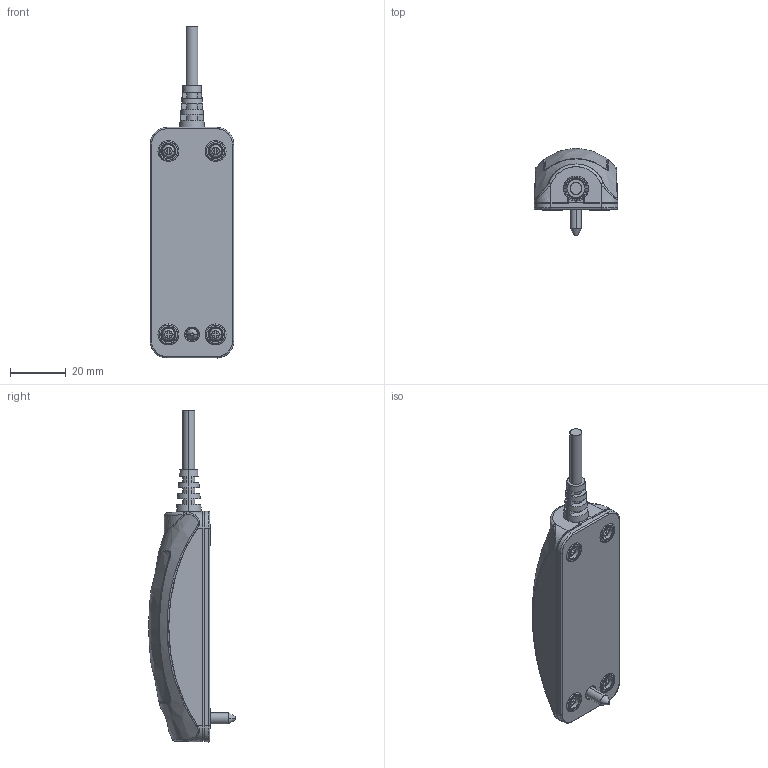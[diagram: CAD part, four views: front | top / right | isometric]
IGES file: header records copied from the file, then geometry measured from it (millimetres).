
Start section: SolidWorks IGES file using NURBS representation for surfaces
Global section: file name: C:\Users\lynn\Desktop\CP2\FL2.IGS; native system: SolidWorks 2015; preprocessor: SolidWorks 2015; author: lynn; date: 200114.090113; units: millimetre
Bounding box: 30 x 31.3 x 119.5 mm (x, y, z)
Surface area: 23023.1 mm2 (no closed solid volume)
Topology: 0 solids, 0 shells, 747 faces, 9783 edges, 9779 vertices
Faces by surface type: bspline 747
